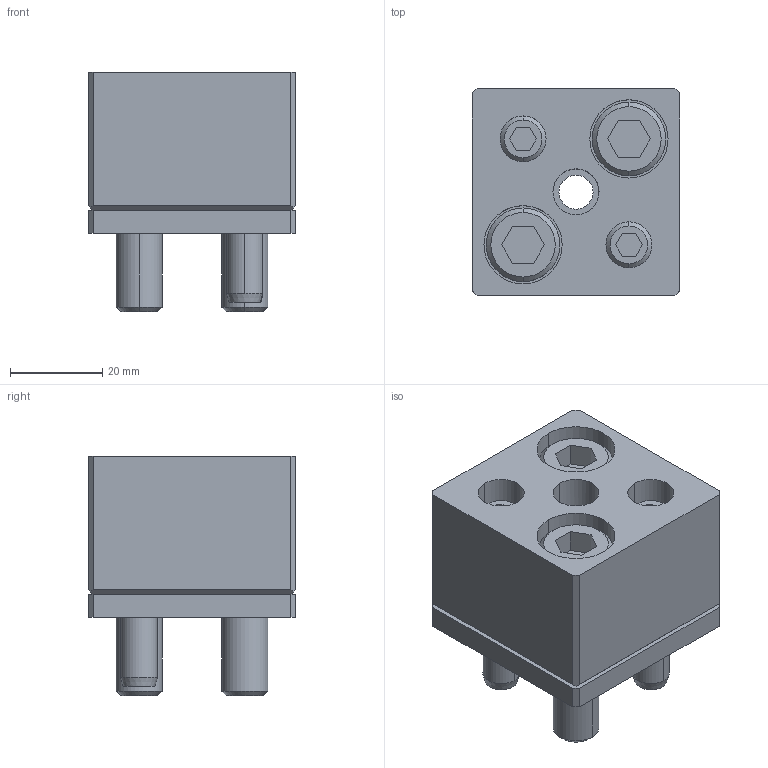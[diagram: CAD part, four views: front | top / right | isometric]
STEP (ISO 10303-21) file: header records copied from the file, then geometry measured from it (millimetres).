
FILE_DESCRIPTION(/* description */ (''),/* implementation_level */ '2;1');
FILE_NAME(/* name */ '3d_sr-fd10_05473_r00.stp',/* time_stamp */ '2011-01-10T14:09:59+09:00',/* author */ ('MISUMI'),/* organization */ (''),/* preprocessor_version */ 'ST-DEVELOPER v11',/* originating_system */ 'UGS - NX 5.0',/* authorisation */ '');
FILE_SCHEMA (('CONFIG_CONTROL_DESIGN'));
Length unit declared in the file: millimetre
Products named in the file (1): 3d_sr-fd10_05473_r00
Bounding box: 45 x 45 x 52 mm (x, y, z)
Volume: 66756.3 mm3; surface area: 26142.2 mm2
Topology: 8 solids, 8 shells, 159 faces, 364 edges, 235 vertices
Faces by surface type: plane 78, cylinder 55, cone 26
Entity records: 4636 total; most frequent: DIRECTION 814, CARTESIAN_POINT 806, ORIENTED_EDGE 728, EDGE_CURVE 364, AXIS2_PLACEMENT_3D 297, VERTEX_POINT 235, LINE 220, VECTOR 220
